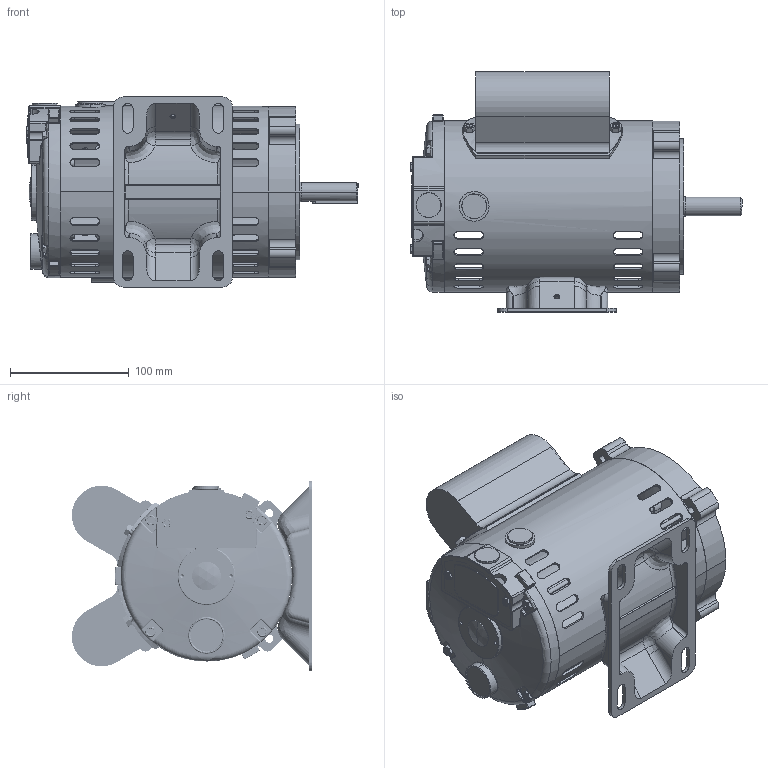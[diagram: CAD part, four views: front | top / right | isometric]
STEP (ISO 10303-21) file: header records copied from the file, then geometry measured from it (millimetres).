
FILE_DESCRIPTION (( 'STEP AP203' ), '1' );
FILE_NAME ('OPE 34-36-56CB.STEP', '2025-03-04T07:01:03', ( 'User' ), ( 'China' ), 'SwSTEP 2.0', 'SolidWorks 2019', '' );
FILE_SCHEMA (( 'CONFIG_CONTROL_DESIGN' ));
Length unit declared in the file: millimetre
Products named in the file (3): x; OPE 34-36-56CB; OPE 34-36-56
Assembly tree (2 placements, depth 2):
  OPE 34-36-56CB
    OPE 34-36-56
    x
Bounding box: 279.35 x 202.21 x 160 mm (x, y, z)
Volume: 649486.1 mm3; surface area: 505171.9 mm2
Topology: 30 solids, 32 shells, 2575 faces, 6734 edges, 4230 vertices
Faces by surface type: cylinder 1210, plane 668, bspline 303, torus 263, cone 106, sphere 25
Entity records: 118483 total; most frequent: CARTESIAN_POINT 58832, ORIENTED_EDGE 13316, DIRECTION 11199, EDGE_CURVE 6658, AXIS2_PLACEMENT_3D 4302, VERTEX_POINT 4226, EDGE_LOOP 2764, LINE 2595
